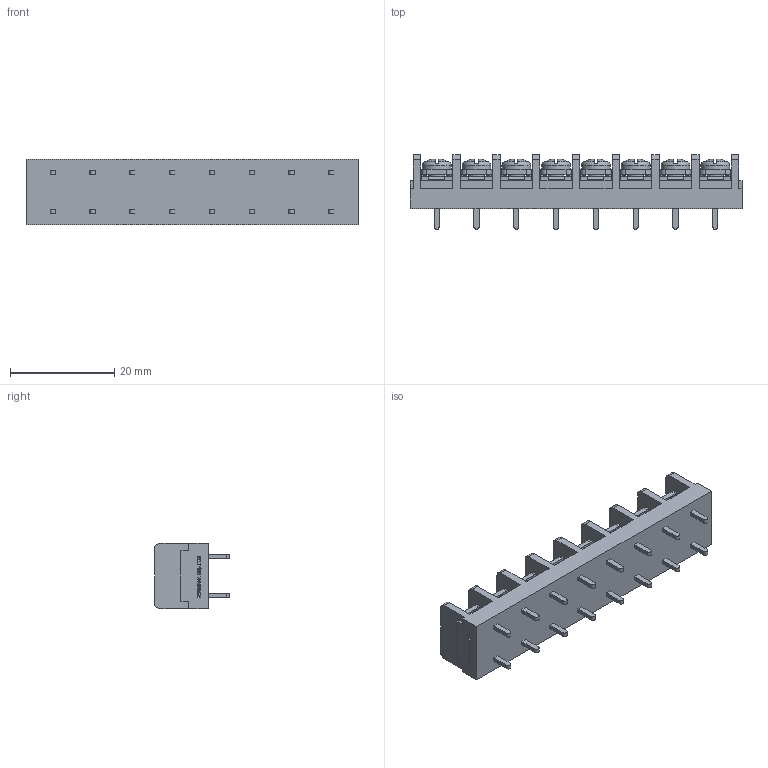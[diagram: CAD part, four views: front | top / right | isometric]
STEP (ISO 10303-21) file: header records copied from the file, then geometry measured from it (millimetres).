
FILE_DESCRIPTION(/* description */ ('Alibre Inc.'),/* implementation_level */ '2;1');
FILE_NAME(/* name */ 'export0',/* time_stamp */ '2015-10-26T18:22:29+09:00',/* author */ (''),/* organization */ (''),/* preprocessor_version */ 'ST-DEVELOPER v14',/* originating_system */ 'Alibre',/* authorisation */ '');
FILE_SCHEMA (('CONFIG_CONTROL_DESIGN'));
Length unit declared in the file: centimetre
Products named in the file (1): ID_1
Bounding box: 63.58 x 14.3 x 12.5 mm (x, y, z)
Volume: 5775.7 mm3; surface area: 5331.4 mm2
Topology: 1 solids, 1 shells, 1194 faces, 3256 edges, 2144 vertices
Faces by surface type: plane 928, bspline 104, cylinder 98, cone 32, torus 16, sphere 16
Full cylindrical faces by diameter (mm): 3 x8, 5.5 x8
Entity records: 35733 total; most frequent: CARTESIAN_POINT 7763, ORIENTED_EDGE 6416, DIRECTION 4386, EDGE_CURVE 3208, VECTOR 2324, LINE 2324, VERTEX_POINT 2128, AXIS2_PLACEMENT_3D 1455
